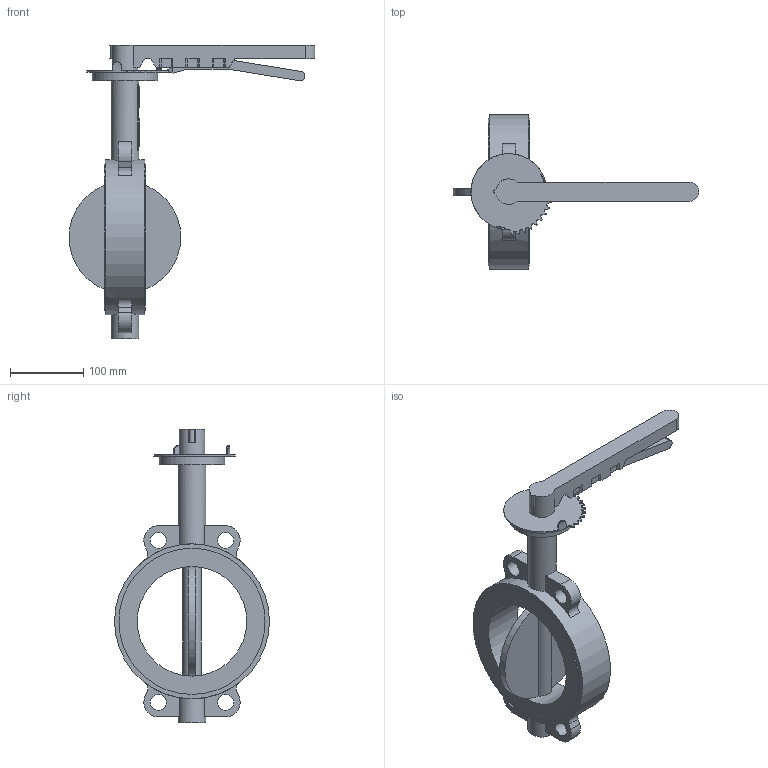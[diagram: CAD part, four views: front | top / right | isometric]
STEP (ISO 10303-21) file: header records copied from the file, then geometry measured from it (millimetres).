
FILE_DESCRIPTION(('STEP AP203'), '1');
FILE_NAME('青蜮铕 017WDN150', '', ('UNSPECIFIED'), ('UNSPECIFIED'), 'ASCON STEP Converter 1.6', 'ASCON Math Kernel', '');
FILE_SCHEMA(('CONFIG_CONTROL_DESIGN'));
Length unit declared in the file: millimetre
Bounding box: 336.5 x 212 x 402 mm (x, y, z)
Volume: 221286.4 mm3; surface area: 244465.3 mm2
Topology: 1 solids, 2 shells, 746 faces, 2204 edges, 1422 vertices
Faces by surface type: cylinder 491, plane 255
Full cylindrical faces by diameter (mm): 10 x4, 18.9 x1, 22 x4, 35 x1, 38 x2, 55 x1, 90 x1, 150 x1, 200 x2, 212 x1
Entity records: 32204 total; most frequent: CARTESIAN_POINT 5415, DIRECTION 4681, ORIENTED_EDGE 4307, EDGE_CURVE 2185, AXIS2_PLACEMENT_3D 1782, VERTEX_POINT 1421, LINE 1117, VECTOR 1117
